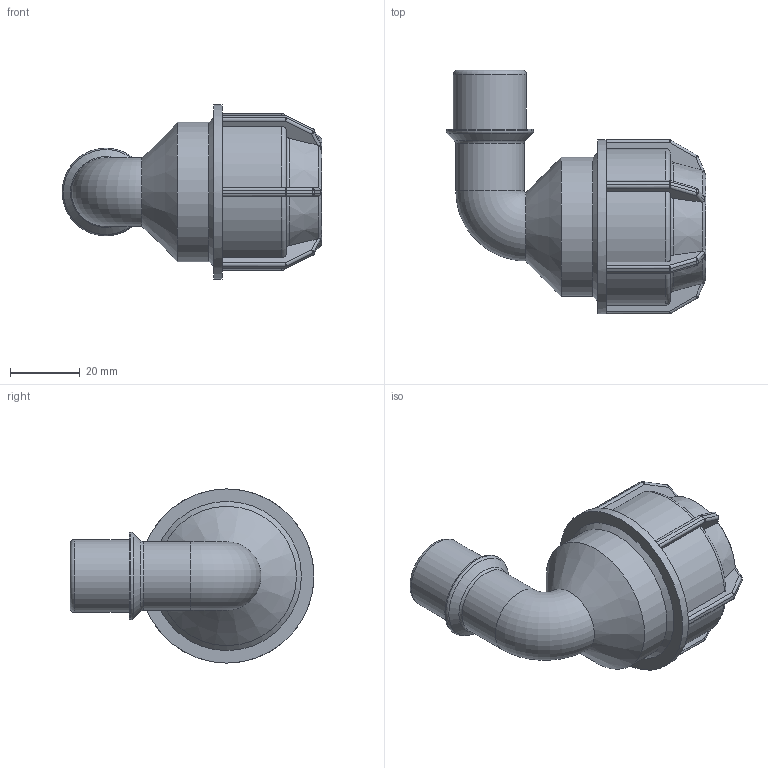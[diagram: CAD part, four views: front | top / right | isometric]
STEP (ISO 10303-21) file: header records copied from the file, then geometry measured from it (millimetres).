
FILE_DESCRIPTION(/* description */ ('PLASSON L.14 90° ELBOW MALE ADAPTOR (SILVER) 25-1/2"'),/* implementation_level */ '2;1');
FILE_NAME(/* name */ 'C:\Dropbox\KIMPROJECTS-Inventor\99-16-3568-Processing\Silver+MF ISRAEL\148500\148500025005.ipt.stp',/* time_stamp */ '2018-04-09T13:05:43+03:00',/* author */ ('KIM'),/* organization */ (''),/* preprocessor_version */ 'ST-DEVELOPER v15.6',/* originating_system */ 'Autodesk Inventor 2015',/* authorisation */ '');
FILE_SCHEMA (('AUTOMOTIVE_DESIGN { 1 0 10303 214 3 1 1 }'));
Length unit declared in the file: millimetre
Products named in the file (1): 148500025005
Bounding box: 74.57 x 70 x 50 mm (x, y, z)
Volume: 46643.6 mm3; surface area: 19930.3 mm2
Topology: 1 solids, 1 shells, 214 faces, 507 edges, 290 vertices
Faces by surface type: plane 98, cylinder 63, sphere 24, torus 19, cone 10
Full cylindrical faces by diameter (mm): 16.764 x2, 19.593 x1, 20.955 x1, 25 x2, 25.146 x1, 40 x1, 50 x1
Entity records: 6122 total; most frequent: CARTESIAN_POINT 1543, DIRECTION 966, ORIENTED_EDGE 924, EDGE_CURVE 462, AXIS2_PLACEMENT_3D 393, VERTEX_POINT 276, EDGE_LOOP 238, FACE_OUTER_BOUND 212
